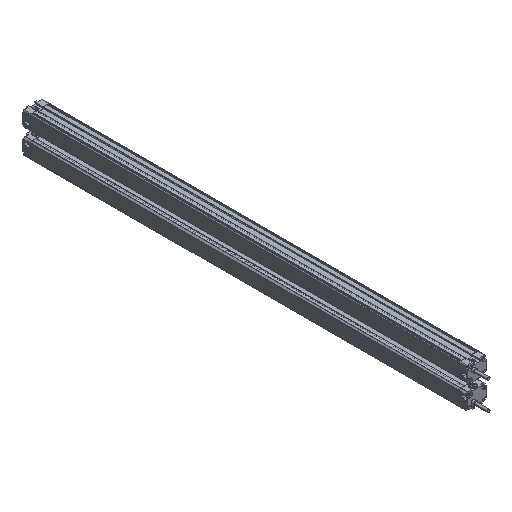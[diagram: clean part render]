
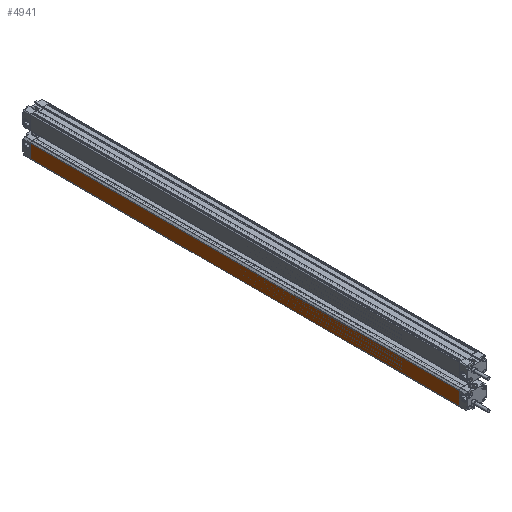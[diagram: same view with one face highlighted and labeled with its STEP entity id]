
A CAD part, isometric view. The second image highlights one B-rep face of the part: STEP entity #4941.
In plain terms, the highlighted planar face has unit normal (-1, 0, 0).
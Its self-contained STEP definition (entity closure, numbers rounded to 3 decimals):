
#779 = LINE ( 'NONE', #7763, #5754 ) ;
#1085 = EDGE_CURVE ( 'NONE', #7480, #10190, #2392, .T. ) ;
#1128 = EDGE_CURVE ( 'NONE', #7480, #9142, #779, .T. ) ;
#1357 = CARTESIAN_POINT ( 'NONE',  ( -12.5, -560., 8.293 ) ) ;
#1856 = DIRECTION ( 'NONE',  ( 0., 1., 0. ) ) ;
#2392 = LINE ( 'NONE', #5257, #7297 ) ;
#2609 = CARTESIAN_POINT ( 'NONE',  ( -12.5, 0., -9.2 ) ) ;
#3155 = DIRECTION ( 'NONE',  ( 0., 0., 1. ) ) ;
#3274 = VERTEX_POINT ( 'NONE', #9294 ) ;
#3486 = VECTOR ( 'NONE', #5198, 1000. ) ;
#3585 = EDGE_CURVE ( 'NONE', #10190, #3274, #5348, .T. ) ;
#3911 = CARTESIAN_POINT ( 'NONE',  ( -12.5, -560., -9.2 ) ) ;
#4078 = ORIENTED_EDGE ( 'NONE', *, *, #3585, .F. ) ;
#4686 = ORIENTED_EDGE ( 'NONE', *, *, #1085, .F. ) ;
#4941 = ADVANCED_FACE ( 'NONE', ( #5477 ), #5433, .T. ) ;
#5198 = DIRECTION ( 'NONE',  ( 0., 0., 1. ) ) ;
#5257 = CARTESIAN_POINT ( 'NONE',  ( -12.5, -560., -9.2 ) ) ;
#5348 = LINE ( 'NONE', #2609, #3486 ) ;
#5433 = PLANE ( 'NONE',  #7372 ) ;
#5477 = FACE_OUTER_BOUND ( 'NONE', #7750, .T. ) ;
#5717 = DIRECTION ( 'NONE',  ( 0., 0., 1. ) ) ;
#5754 = VECTOR ( 'NONE', #3155, 1000. ) ;
#5937 = VECTOR ( 'NONE', #6337, 1000. ) ;
#6337 = DIRECTION ( 'NONE',  ( 0., 1., 0. ) ) ;
#6817 = CARTESIAN_POINT ( 'NONE',  ( -12.5, -560., 8.293 ) ) ;
#7297 = VECTOR ( 'NONE', #1856, 1000. ) ;
#7372 = AXIS2_PLACEMENT_3D ( 'NONE', #3911, #9065, #5717 ) ;
#7480 = VERTEX_POINT ( 'NONE', #8936 ) ;
#7551 = ORIENTED_EDGE ( 'NONE', *, *, #10771, .T. ) ;
#7750 = EDGE_LOOP ( 'NONE', ( #4078, #4686, #8592, #7551 ) ) ;
#7763 = CARTESIAN_POINT ( 'NONE',  ( -12.5, -560., -9.2 ) ) ;
#8021 = CARTESIAN_POINT ( 'NONE',  ( -12.5, 0., -9.2 ) ) ;
#8592 = ORIENTED_EDGE ( 'NONE', *, *, #1128, .T. ) ;
#8936 = CARTESIAN_POINT ( 'NONE',  ( -12.5, -560., -9.2 ) ) ;
#9065 = DIRECTION ( 'NONE',  ( -1., 0., 0. ) ) ;
#9142 = VERTEX_POINT ( 'NONE', #6817 ) ;
#9294 = CARTESIAN_POINT ( 'NONE',  ( -12.5, 0., 8.293 ) ) ;
#10190 = VERTEX_POINT ( 'NONE', #8021 ) ;
#10730 = LINE ( 'NONE', #1357, #5937 ) ;
#10771 = EDGE_CURVE ( 'NONE', #9142, #3274, #10730, .T. ) ;
